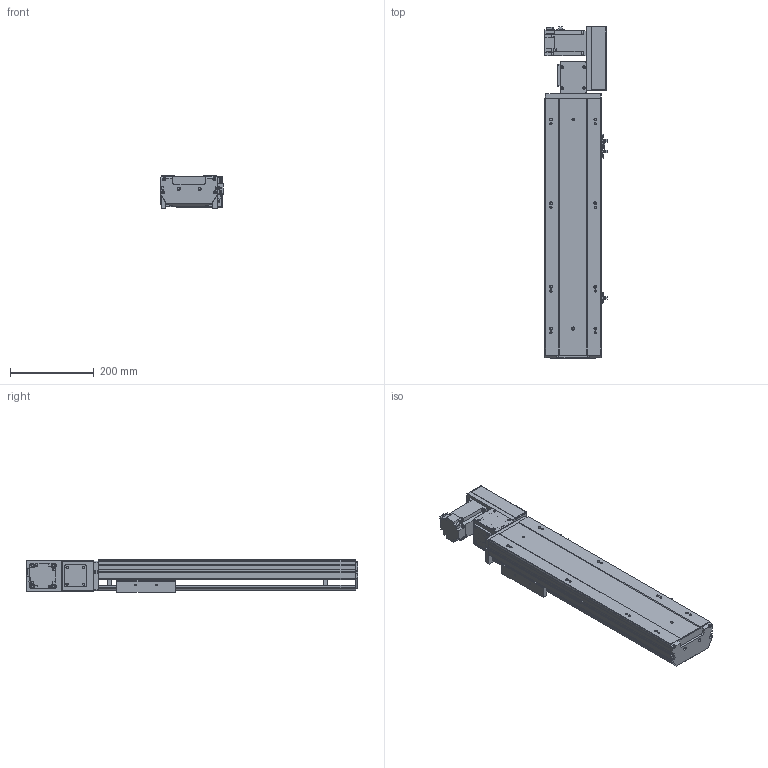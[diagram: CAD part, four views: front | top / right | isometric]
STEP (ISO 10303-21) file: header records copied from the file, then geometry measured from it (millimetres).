
FILE_DESCRIPTION (( 'STEP AP203' ), '1' );
FILE_NAME ('35.STEP', '2022-07-20T11:48:37', ( '' ), ( '' ), 'SwSTEP 2.0', 'SolidWorks 2016', '' );
FILE_SCHEMA (( 'CONFIG_CONTROL_DESIGN' ));
Length unit declared in the file: millimetre
Products named in the file (10): BTB14-L-HZ; BTB14-L-菁釱_XD; BTB14-L-M40; BTB14-L-04; BTB14-L-01; BTB14-L-02; BTB14-L-23; BTB14-L-06; BTB14-L-24; 35
Assembly tree (12 placements, depth 2):
  35
    BTB14-L-菁釱_XD
    BTB14-L-01
    BTB14-L-02
    BTB14-L-04  x3
    BTB14-L-06
    BTB14-L-23  x2
    BTB14-L-24
    BTB14-L-HZ
    BTB14-L-M40
Bounding box: 148.7 x 793.5 x 78 mm (x, y, z)
Volume: 3657309.7 mm3; surface area: 806823 mm2
Topology: 22 solids, 22 shells, 1582 faces, 4181 edges, 2674 vertices
Faces by surface type: plane 937, cylinder 440, cone 116, bspline 77, torus 12
Entity records: 41842 total; most frequent: CARTESIAN_POINT 10425, ORIENTED_EDGE 6300, DIRECTION 6216, EDGE_CURVE 3150, VECTOR 2170, LINE 2170, VERTEX_POINT 2052, AXIS2_PLACEMENT_3D 2023
